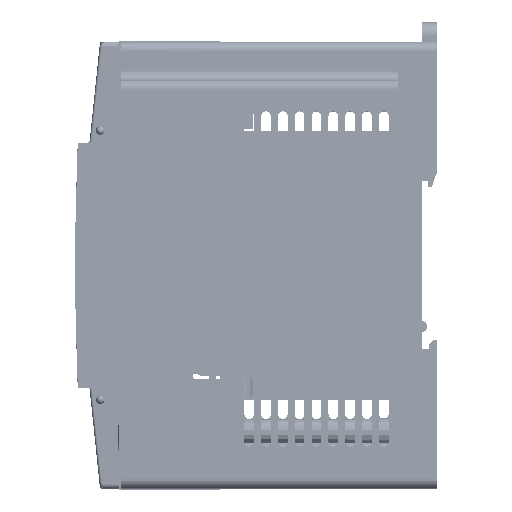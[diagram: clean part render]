
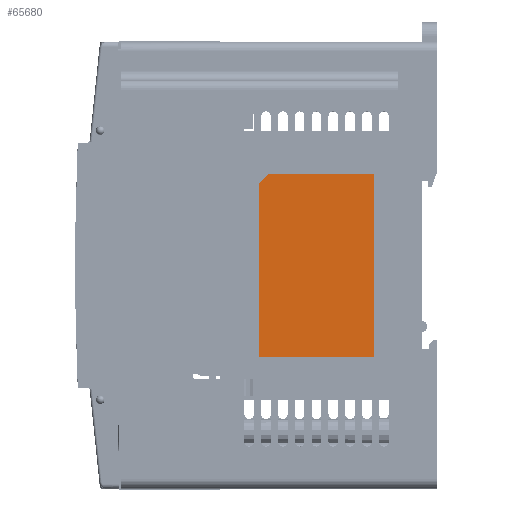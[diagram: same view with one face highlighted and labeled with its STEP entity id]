
A CAD part, left-side view. The second image highlights one B-rep face of the part: STEP entity #65680.
In plain terms, the highlighted planar face has unit normal (-1, 0, 0).
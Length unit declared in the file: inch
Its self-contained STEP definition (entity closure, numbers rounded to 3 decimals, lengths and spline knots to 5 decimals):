
#8437 = VECTOR ( 'NONE', #28692, 39.37008 ) ;
#11507 = AXIS2_PLACEMENT_3D ( 'NONE', #51552, #44346, #21705 ) ;
#19734 = ORIENTED_EDGE ( 'NONE', *, *, #61553, .T. ) ;
#21705 = DIRECTION ( 'NONE',  ( 0., 1., 0. ) ) ;
#21743 = CARTESIAN_POINT ( 'NONE',  ( -2.65354, 0.51167, -0.74803 ) ) ;
#22751 = VECTOR ( 'NONE', #67462, 39.37008 ) ;
#26307 = VERTEX_POINT ( 'NONE', #43158 ) ;
#28692 = DIRECTION ( 'NONE',  ( 0., -1., 0. ) ) ;
#32434 = CARTESIAN_POINT ( 'NONE',  ( -2.65354, 0.51167, -0.74803 ) ) ;
#34762 = CARTESIAN_POINT ( 'NONE',  ( -2.65354, 1.37795, 0.74803 ) ) ;
#36727 = CARTESIAN_POINT ( 'NONE',  ( -2.65354, 0.51167, 0.74803 ) ) ;
#37177 = LINE ( 'NONE', #36727, #22751 ) ;
#37783 = EDGE_LOOP ( 'NONE', ( #66322, #19734, #43477, #81980, #69507 ) ) ;
#39710 = LINE ( 'NONE', #32434, #75383 ) ;
#41033 = CARTESIAN_POINT ( 'NONE',  ( -2.65354, 1.37795, 0.74803 ) ) ;
#42754 = CARTESIAN_POINT ( 'NONE',  ( -2.65354, 1.45655, -0.74803 ) ) ;
#43156 = LINE ( 'NONE', #50844, #8437 ) ;
#43158 = CARTESIAN_POINT ( 'NONE',  ( -2.65354, 0.51167, 0.74803 ) ) ;
#43477 = ORIENTED_EDGE ( 'NONE', *, *, #81638, .T. ) ;
#44077 = EDGE_CURVE ( 'NONE', #59364, #62797, #62175, .T. ) ;
#44346 = DIRECTION ( 'NONE',  ( 1., 0., 0. ) ) ;
#46526 = EDGE_CURVE ( 'NONE', #66567, #86338, #43156, .T. ) ;
#50844 = CARTESIAN_POINT ( 'NONE',  ( -2.65354, 0.51167, -0.74803 ) ) ;
#51071 = FACE_OUTER_BOUND ( 'NONE', #37783, .T. ) ;
#51552 = CARTESIAN_POINT ( 'NONE',  ( -2.65354, 0., 0. ) ) ;
#56219 = LINE ( 'NONE', #42754, #80581 ) ;
#58283 = PLANE ( 'NONE',  #11507 ) ;
#58871 = CARTESIAN_POINT ( 'NONE',  ( -2.65354, 1.45655, -0.74803 ) ) ;
#59364 = VERTEX_POINT ( 'NONE', #34762 ) ;
#61553 = EDGE_CURVE ( 'NONE', #86338, #26307, #39710, .T. ) ;
#62175 = LINE ( 'NONE', #41033, #68236 ) ;
#62797 = VERTEX_POINT ( 'NONE', #86398 ) ;
#63195 = DIRECTION ( 'NONE',  ( 0., 0., 1. ) ) ;
#65680 = ADVANCED_FACE ( 'NONE', ( #51071 ), #58283, .F. ) ;
#66322 = ORIENTED_EDGE ( 'NONE', *, *, #46526, .T. ) ;
#66567 = VERTEX_POINT ( 'NONE', #58871 ) ;
#67462 = DIRECTION ( 'NONE',  ( 0., 1., 0. ) ) ;
#68236 = VECTOR ( 'NONE', #70778, 39.37008 ) ;
#69507 = ORIENTED_EDGE ( 'NONE', *, *, #88242, .T. ) ;
#70778 = DIRECTION ( 'NONE',  ( 0., 0.706, -0.708 ) ) ;
#72060 = DIRECTION ( 'NONE',  ( 0., 0., -1. ) ) ;
#75383 = VECTOR ( 'NONE', #63195, 39.37008 ) ;
#80581 = VECTOR ( 'NONE', #72060, 39.37008 ) ;
#81638 = EDGE_CURVE ( 'NONE', #26307, #59364, #37177, .T. ) ;
#81980 = ORIENTED_EDGE ( 'NONE', *, *, #44077, .T. ) ;
#86338 = VERTEX_POINT ( 'NONE', #21743 ) ;
#86398 = CARTESIAN_POINT ( 'NONE',  ( -2.65354, 1.45655, 0.66929 ) ) ;
#88242 = EDGE_CURVE ( 'NONE', #62797, #66567, #56219, .T. ) ;
